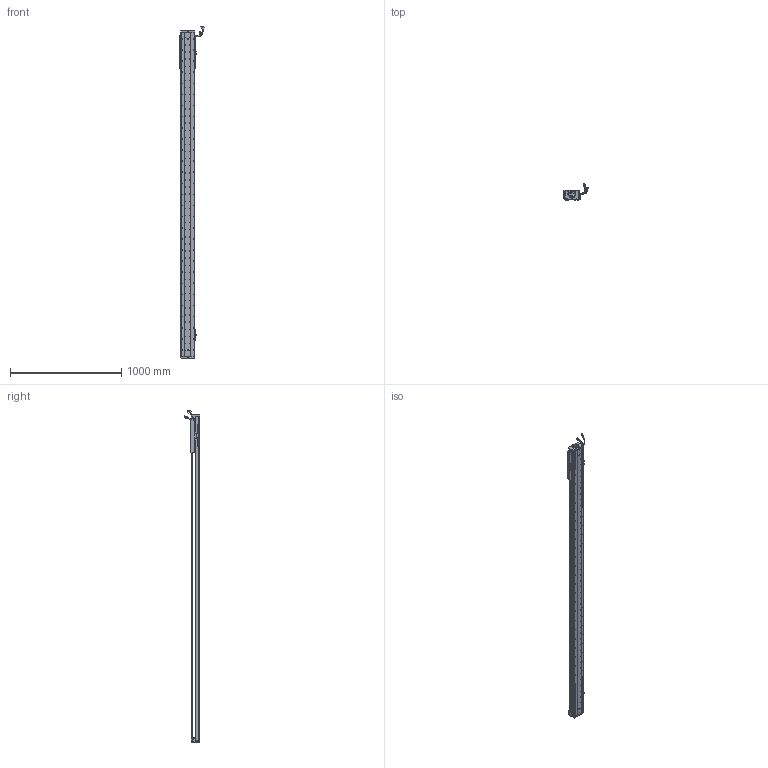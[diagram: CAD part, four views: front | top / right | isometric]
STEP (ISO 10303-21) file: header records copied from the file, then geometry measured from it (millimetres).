
FILE_DESCRIPTION (( 'STEP AP203' ), '1' );
FILE_NAME ('Z4-RY120D-1-L500-B-K.SLDASM_2550.step', '2021-05-17T06:10:49', ( '盈信电脑' ), ( '东莞市道滘镇水果街19号' ), 'SwSTEP 2.0', 'SolidWorks 2016', '' );
FILE_SCHEMA (( 'CONFIG_CONTROL_DESIGN' ));
Length unit declared in the file: millimetre
Products named in the file (37): 672嫖萇羲壽假蚾釱; Z-RY120D詩湍狟揤裔; Z-120詩湍傷裔啣; SCREW-M1.6-3; SEAL-Part-1; Z4-RY120-L500詩湍100mm遵_2550; COVER; SCREW-M1.7-1; PBU_SHEET; SCREW-M1.6-2; 榋妏寠巭燃_暯_M2_2; Z4-RY120-500-倰第菁釱_2550; SCALE; HARNESS-Part-2; HARNESS-Part-1; SHIELDPLATE; SCREW-M1.6-1; Z4-RY120铝滑块（21款）; 140雄赽晤鎢ん堤盄; COVER-Part-1; HOLDER0; LABEL; PSLH080_PSLF2; 覜茼ん672; 120-Z-臏賑輸盄裔(21遴); SEAL; HARNESS; Z4-RY120D-1-L500-B-K.SLDASM_2550; Z-RY120D詩湍奻揤裔; 140蚥薯蝶輸; LABEL-Part-1; SCALE-Part-1; SCALE-Part-2; RY100FB-遵嫖萇覜茼え; SCREW-M1.7; SCREW-M1.6; 080黍杅芛假蚾釱21遴
Assembly tree (43 placements, depth 4):
  Z4-RY120D-1-L500-B-K.SLDASM_2550
    Z4-RY120-500-倰第菁釱_2550
    覜茼ん672  x3
    672嫖萇羲壽假蚾釱  x2
    Z4-RY120铝滑块（21款）
    PSLH080_PSLF2
      SCALE
        SCALE-Part-1
        SCALE-Part-2
      HARNESS
        HARNESS-Part-1
        HARNESS-Part-2
      LABEL
        LABEL-Part-1
      COVER
        COVER-Part-1
      SEAL
        SEAL-Part-1
      榋妏寠巭燃_暯_M2_2
      SHIELDPLATE
      SCREW-M1.7
      SCREW-M1.7-1
      PBU_SHEET
      SCREW-M1.6
      SCREW-M1.6-1
      SCREW-M1.6-2
      SCREW-M1.6-3
      HOLDER0
    080黍杅芛假蚾釱21遴
    120-Z-臏賑輸盄裔(21遴)
    140雄赽晤鎢ん堤盄
    140蚥薯蝶輸  x2
    RY100FB-遵嫖萇覜茼え
    Z-120詩湍傷裔啣  x2
    Z-RY120D詩湍奻揤裔  x2
    Z-RY120D詩湍狟揤裔  x2
    Z4-RY120-L500詩湍100mm遵_2550
Bounding box: 222.83 x 140.94 x 2988.99 mm (x, y, z)
Volume: 7087971.2 mm3; surface area: 2454154.4 mm2
Topology: 38 solids, 38 shells, 3869 faces, 11092 edges, 6996 vertices
Faces by surface type: cylinder 2068, plane 1273, cone 406, torus 69, bspline 53
Entity records: 131665 total; most frequent: CARTESIAN_POINT 40870, ORIENTED_EDGE 18896, DIRECTION 17198, EDGE_CURVE 9448, AXIS2_PLACEMENT_3D 6374, VERTEX_POINT 6116, LINE 4450, VECTOR 4450
